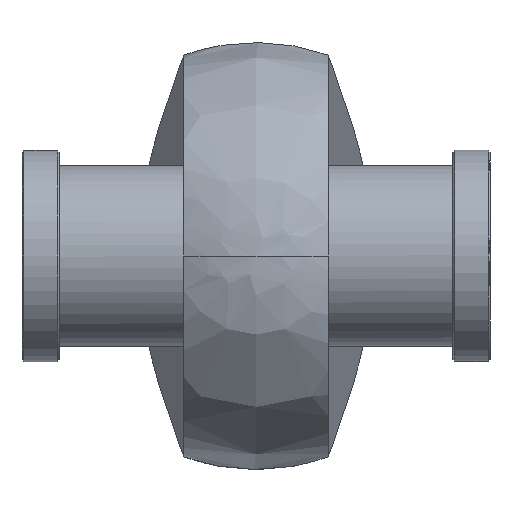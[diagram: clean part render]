
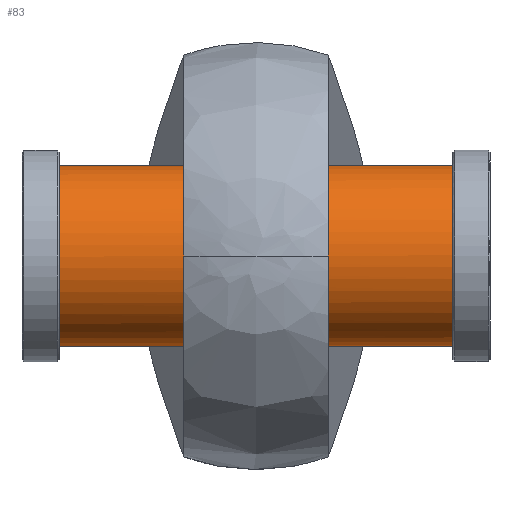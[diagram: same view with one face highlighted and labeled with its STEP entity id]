
A CAD part, left-side view. The second image highlights one B-rep face of the part: STEP entity #83.
In plain terms, the highlighted cylindrical face has radius 24.5 mm (diameter 49 mm), a full revolution.
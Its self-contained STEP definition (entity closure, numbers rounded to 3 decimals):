
#83=ADVANCED_FACE('',(#157),#1214,.T.);
#157=FACE_OUTER_BOUND('',#238,.T.);
#238=EDGE_LOOP('',(#506,#507,#508,#509));
#506=ORIENTED_EDGE('',*,*,#774,.T.);
#507=ORIENTED_EDGE('',*,*,#776,.T.);
#508=ORIENTED_EDGE('',*,*,#775,.T.);
#509=ORIENTED_EDGE('',*,*,#776,.F.);
#774=EDGE_CURVE('',#1128,#1128,#983,.T.);
#775=EDGE_CURVE('',#1129,#1129,#984,.T.);
#776=EDGE_CURVE('',#1128,#1129,#897,.T.);
#897=B_SPLINE_CURVE_WITH_KNOTS('',1,(#2248,#2249),.UNSPECIFIED.,.F.,.F.,
(2,2),(10.727,116.8),.UNSPECIFIED.);
#983=(
BOUNDED_CURVE()
B_SPLINE_CURVE(2,(#2230,#2231,#2232,#2233,#2234,#2235,#2236,#2237,#2238),
 .UNSPECIFIED.,.T.,.F.)
B_SPLINE_CURVE_WITH_KNOTS((3,2,2,2,3),(0.,38.485,76.969,
115.454,153.938),.UNSPECIFIED.)
CURVE()
GEOMETRIC_REPRESENTATION_ITEM()
RATIONAL_B_SPLINE_CURVE((1.,0.707,1.,0.707,1.,0.707,
1.,0.707,1.))
REPRESENTATION_ITEM('')
);
#984=(
BOUNDED_CURVE()
B_SPLINE_CURVE(2,(#2239,#2240,#2241,#2242,#2243,#2244,#2245,#2246,#2247),
 .UNSPECIFIED.,.T.,.F.)
B_SPLINE_CURVE_WITH_KNOTS((3,2,2,2,3),(0.,38.485,76.969,
115.454,153.938),.UNSPECIFIED.)
CURVE()
GEOMETRIC_REPRESENTATION_ITEM()
RATIONAL_B_SPLINE_CURVE((1.,0.707,1.,0.707,1.,0.707,
1.,0.707,1.))
REPRESENTATION_ITEM('')
);
#1128=VERTEX_POINT('',#2182);
#1129=VERTEX_POINT('',#2183);
#1214=CYLINDRICAL_SURFACE('',#1366,24.5);
#1366=AXIS2_PLACEMENT_3D('',#2172,#1412,$);
#1412=DIRECTION('',(0.,-1.,0.));
#2172=CARTESIAN_POINT('',(0.,0.,0.));
#2182=CARTESIAN_POINT('',(24.5,53.036,0.));
#2183=CARTESIAN_POINT('',(24.5,-53.036,0.));
#2230=CARTESIAN_POINT('',(24.5,53.036,0.));
#2231=CARTESIAN_POINT('',(24.5,53.036,24.5));
#2232=CARTESIAN_POINT('',(0.,53.036,24.5));
#2233=CARTESIAN_POINT('',(-24.5,53.036,24.5));
#2234=CARTESIAN_POINT('',(-24.5,53.036,0.));
#2235=CARTESIAN_POINT('',(-24.5,53.036,-24.5));
#2236=CARTESIAN_POINT('',(0.,53.036,-24.5));
#2237=CARTESIAN_POINT('',(24.5,53.036,-24.5));
#2238=CARTESIAN_POINT('',(24.5,53.036,0.));
#2239=CARTESIAN_POINT('',(24.5,-53.036,0.));
#2240=CARTESIAN_POINT('',(24.5,-53.036,-24.5));
#2241=CARTESIAN_POINT('',(0.,-53.036,-24.5));
#2242=CARTESIAN_POINT('',(-24.5,-53.036,-24.5));
#2243=CARTESIAN_POINT('',(-24.5,-53.036,0.));
#2244=CARTESIAN_POINT('',(-24.5,-53.036,24.5));
#2245=CARTESIAN_POINT('',(0.,-53.036,24.5));
#2246=CARTESIAN_POINT('',(24.5,-53.036,24.5));
#2247=CARTESIAN_POINT('',(24.5,-53.036,0.));
#2248=CARTESIAN_POINT('',(24.5,53.036,0.));
#2249=CARTESIAN_POINT('',(24.5,-53.036,0.));
